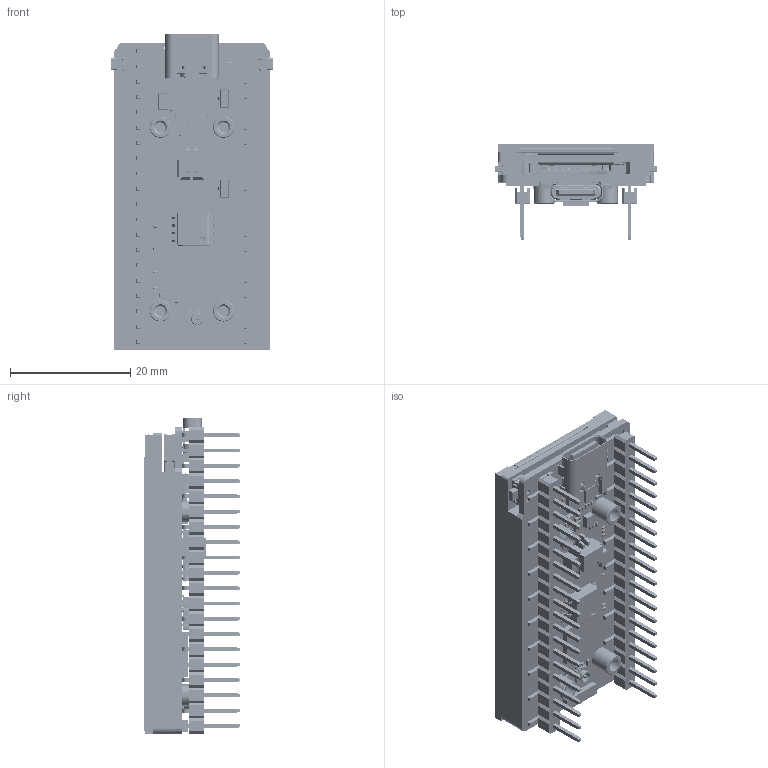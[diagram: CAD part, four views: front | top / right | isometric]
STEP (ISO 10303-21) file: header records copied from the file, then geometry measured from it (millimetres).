
FILE_DESCRIPTION((''),'2;1');
FILE_NAME('ESP32-S3-LCD-1_9_ASM','2025-04-11T11:39:41',('xiaojisheng'),(''),'CREO PARAMETRIC BY PTC INC, 2021063','CREO PARAMETRIC BY PTC INC, 2021063','');
FILE_SCHEMA(('CONFIG_CONTROL_DESIGN','SHAPE_APPEARANCE_LAYERS_GROUPS'));
Products named in the file (146): BOARD; USER_LIBRARY-RES_0603-0201_1; USER_LIBRARY-RES_0603-0201_2; USER_LIBRARY-RES_0603-0201_3; USER_LIBRARY-RES_0603-0201_4; USER_LIBRARY-RES_0603-0201_ASM; R25_ASM; R4_ASM; EXTRUDED-13326; 1281468320_ASM; LED3_ASM; LED2_ASM; FPC0_5_2H-W__1_2_30018; 6_1_2_3_4_5_6_7_8_0012; 7_1_2_3_4_5_6_7_8_0016; FPC0_5_2H-S-W-24P-6684_AF0_ASM_ASM; FPC0_5_2H-S-W-24P-15630_AF0_ASM_ASM; FPC0_5_2H-S-W-24P_ASM; J7_ASM; R31_ASM; USER_LIBRARY-0201_0603M__CAP_1; USER_LIBRARY-0201_0603M__CAP_2; USER_LIBRARY-0201_0603M__CAP_3; USER_LIBRARY-0201_0603M__CAP_ASM; C12_ASM; USER_LIBRARY-QFN56_0_4; U6_ASM; USER_LIBRARY-LGA-14L; U3_ASM; EXTRUDED-331146; 453956752_ASM; U1_ASM; EXTRUDED-331541; 453958160_ASM; Y1_ASM; PIN_SOIC_SOIC-208_1; SOIC_150_SOIC_5_4X5_4_1; USER_LIBRARY-SOIC-8-208_ASM; U4_ASM; EXTRUDED-336305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
Assembly tree (240 placements, depth 9):
  ESP32-S3-LCD-1_9_ASM
    ESP32-S3-LCD-1_9-PCBA_ASM
      ESP32-S3-LCD-1_9-PCBA-20241227_ASM
        PCB_ASM
          BOARD
          R25_ASM
            USER_LIBRARY-RES_0603-0201_ASM
              USER_LIBRARY-RES_0603-0201_1
              USER_LIBRARY-RES_0603-0201_2
              USER_LIBRARY-RES_0603-0201_3
              USER_LIBRARY-RES_0603-0201_4
          R4_ASM
            USER_LIBRARY-RES_0603-0201_ASM
              USER_LIBRARY-RES_0603-0201_1
              USER_LIBRARY-RES_0603-0201_2
              USER_LIBRARY-RES_0603-0201_3
              USER_LIBRARY-RES_0603-0201_4
          LED3_ASM
            1281468320_ASM
              EXTRUDED-13326
          LED2_ASM
            1281468320_ASM
              EXTRUDED-13326
          J7_ASM
            FPC0_5_2H-S-W-24P_ASM
              FPC0_5_2H-S-W-24P-15630_AF0_ASM_ASM
                FPC0_5_2H-W__1_2_30018  x24
                FPC0_5_2H-S-W-24P-6684_AF0_ASM_ASM
                  6_1_2_3_4_5_6_7_8_0012
                  7_1_2_3_4_5_6_7_8_0016
          R31_ASM
            USER_LIBRARY-RES_0603-0201_ASM
              USER_LIBRARY-RES_0603-0201_1
              USER_LIBRARY-RES_0603-0201_2
              USER_LIBRARY-RES_0603-0201_3
              USER_LIBRARY-RES_0603-0201_4
          C12_ASM
            USER_LIBRARY-0201_0603M__CAP_ASM
              USER_LIBRARY-0201_0603M__CAP_1
              USER_LIBRARY-0201_0603M__CAP_2
              USER_LIBRARY-0201_0603M__CAP_3
          U6_ASM
            USER_LIBRARY-QFN56_0_4
          U3_ASM
            USER_LIBRARY-LGA-14L
          U1_ASM
            453956752_ASM
              EXTRUDED-331146
          Y1_ASM
            453958160_ASM
              EXTRUDED-331541
          U4_ASM
            USER_LIBRARY-SOIC-8-208_ASM
              PIN_SOIC_SOIC-208_1  x8
              SOIC_150_SOIC_5_4X5_4_1
          U2_ASM
            453922832_ASM
              EXTRUDED-336305
            453956240_ASM  x6
              EXTRUDED-336677
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Bounding box: 27.02 x 15.9 x 52.49 mm (x, y, z)
Volume: 6745.8 mm3; surface area: 15376.3 mm2
Topology: 277 solids, 286 shells, 13525 faces, 35787 edges, 23218 vertices
Faces by surface type: plane 9347, extrusion 2275, cylinder 1544, sphere 216, cone 79, bspline 52, torus 12
Entity records: 279874 total; most frequent: CARTESIAN_POINT 55746, ORIENTED_EDGE 33692, DIRECTION 30649, PRESENTATION_STYLE_ASSIGNMENT 18568, EDGE_CURVE 16862, STYLED_ITEM 16836, CURVE_STYLE 16697, VECTOR 14459
